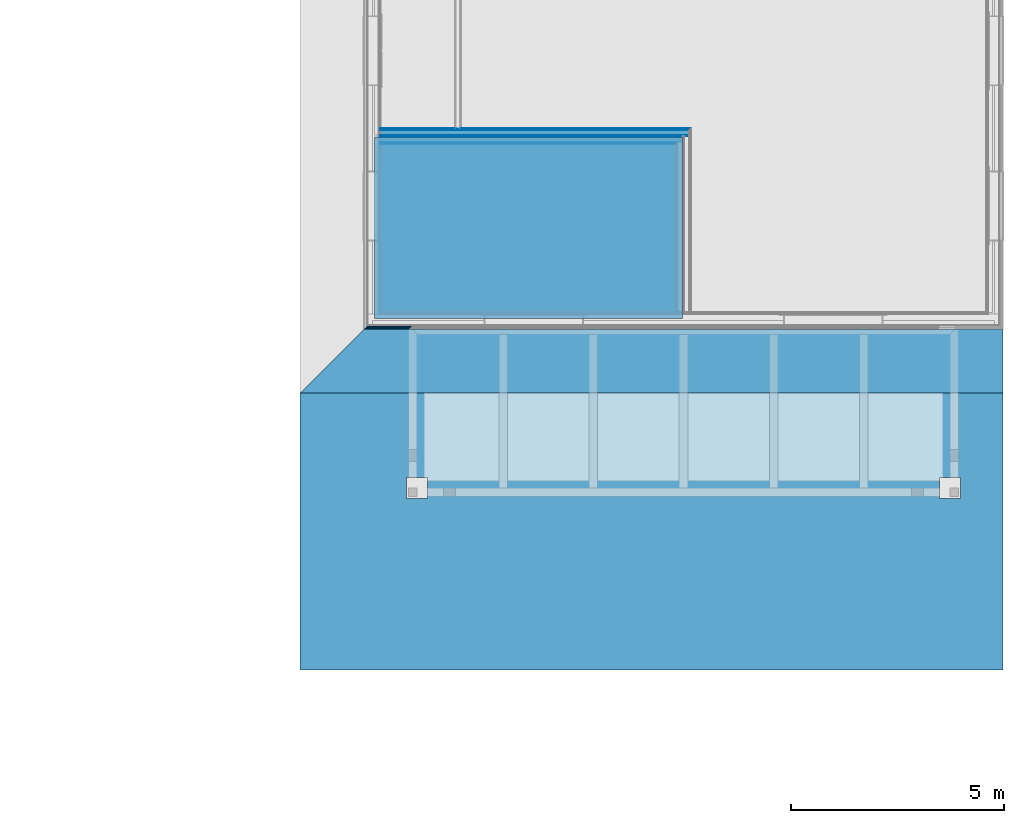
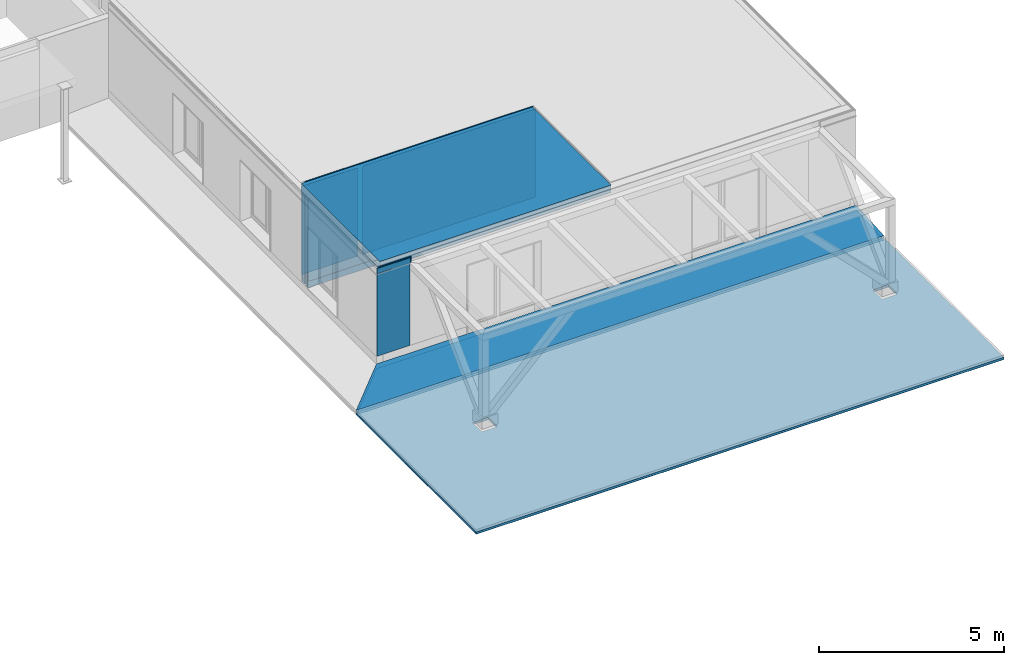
# One storey, part 9 of 20: 22 building element parts, 6 elements without a shape of their own.
"""IFC4 building model written with IfcOpenShell, lengths in millimetres."""

from ifc_helpers import new_model, entity, si_unit, converted_unit, derived_unit, direction, frame, origin_with_axes, place, context, subcontext, project, spatial, polygons, material, type_object, element, aggregate, save


model = new_model("IFC4")

# Units and contexts
model_context = context("Model", 3, precision=0.01, world=origin_with_axes(), true_north=direction((0.0, 1.0)))
body_context = subcontext(model_context, "Body", "Model", "MODEL_VIEW")
ifc_project = project(units=[si_unit("LENGTHUNIT", "METRE", prefix="MILLI"), si_unit("AREAUNIT", "SQUARE_METRE"), si_unit("VOLUMEUNIT", "CUBIC_METRE"), converted_unit("PLANEANGLEUNIT", "DEGREE", entity("IfcPlaneAngleMeasure", 0.0174532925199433), si_unit("PLANEANGLEUNIT", "RADIAN"), dimensions=[0, 0, 0, 0, 0, 0, 0]), converted_unit("TIMEUNIT", "Year", entity("IfcTimeMeasure", 31557600.0), si_unit("TIMEUNIT", "SECOND"), dimensions=[0, 0, 1, 0, 0, 0, 0]), si_unit("MASSUNIT", "GRAM", prefix="KILO"), si_unit("THERMODYNAMICTEMPERATUREUNIT", "DEGREE_CELSIUS"), si_unit("LUMINOUSINTENSITYUNIT", "LUMEN"), si_unit("ENERGYUNIT", "JOULE", prefix="MEGA"), derived_unit("THERMALCONDUCTANCEUNIT", [(si_unit("POWERUNIT", "WATT"), 1), (si_unit("LENGTHUNIT", "METRE"), -1), (si_unit("THERMODYNAMICTEMPERATUREUNIT", "KELVIN"), -1)]), derived_unit("SPECIFICHEATCAPACITYUNIT", [(si_unit("ENERGYUNIT", "JOULE"), 1), (si_unit("MASSUNIT", "GRAM", prefix="KILO"), -1), (si_unit("THERMODYNAMICTEMPERATUREUNIT", "KELVIN"), -1)]), derived_unit("MASSDENSITYUNIT", [(si_unit("MASSUNIT", "GRAM", prefix="KILO"), 1), (si_unit("VOLUMEUNIT", "CUBIC_METRE"), -1)])], contexts=[model_context])

# Site, building, storey
site_placement = place(None, origin_with_axes())
site = spatial("IfcSite", under=ifc_project, at=site_placement, Name="Gelände", CompositionType="ELEMENT")
building_placement = place(site_placement, origin_with_axes())
building = spatial("IfcBuilding", under=site, at=building_placement, Name="Gebäude", CompositionType="ELEMENT")
storey_placement = place(building_placement, frame((0.0, 0.0, 5.198845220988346e-05), z_axis=(0.0, 0.0, 1.0), x_axis=(1.0, 0.0, 0.0)))
storey = spatial("IfcBuildingStorey", under=building, at=storey_placement, Name="EG", CompositionType="ELEMENT", Elevation=0.0)

# Wall, building element parts
wall_type = type_object("IfcWallType", Name="Trennwand Typ 01 186", PredefinedType="NOTDEFINED")
wall_1_placement = place(storey_placement, frame((18307.99744477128, 13160.59728131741, 0.0), z_axis=(0.0, 0.0, 1.0), x_axis=(1.0, 0.0, 0.0)))
wall_1 = element("IfcWall", 1, at=wall_1_placement, inside=storey, type_object=wall_type, Name="Wand-014", PredefinedType="NOTDEFINED")
ifc_material_1 = material(Name="Kalkzementputz Aussen")
building_element_part_1_placement = place(wall_1_placement, origin_with_axes())
building_element_part_1 = element("IfcBuildingElementPart", 2, at=building_element_part_1_placement, material=ifc_material_1, Name="Kalkzementputz Aussen", PredefinedType="NOTDEFINED", context=body_context, shape_type="Tessellation", body=[
    polygons([(1745.507296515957, -9.99999912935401, 219.9999480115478), (1745.507296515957, 8.706457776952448e-07, 219.999948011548), (1745.507296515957, 2.980234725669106e-06, 3143.999948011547), (1745.507296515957, -9.999997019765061, 3143.999948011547), (0.0, 0.0, 219.9999480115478), (0.0, -9.99999999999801, 219.9999480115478), (0.0, 0.0, 3143.999948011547), (0.0, -9.999999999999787, 3143.999948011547)], [[[1, 2, 3, 4]], [[5, 2, 1, 6]], [[2, 5, 7, 3]], [[4, 3, 7, 8]], [[6, 1, 4, 8]], [[5, 6, 8, 7]]], closed=True),
    polygons([(7306.999999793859, -9.999997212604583, 219.9999480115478), (7306.999999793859, 2.980234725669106e-06, 219.9999480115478), (7306.999999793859, 2.980234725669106e-06, 500.0), (7306.999999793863, 2.630820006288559e-07, 3143.999948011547), (7306.999999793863, -9.999999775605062, 3143.999948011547), (1899.507296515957, 9.290630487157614e-07, 219.9999480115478), (1899.507296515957, -9.999999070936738, 219.999948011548), (1899.507296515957, 2.980234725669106e-06, 3143.999948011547), (1899.507296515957, -9.999997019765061, 3143.999948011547)], [[[1, 2, 3, 4, 5]], [[6, 2, 1, 7]], [[2, 6, 8, 4, 3]], [[5, 4, 8, 9]], [[7, 1, 5, 9]], [[6, 7, 9, 8]]], closed=True),
])
ifc_material_2 = material(Name="Gipskartonplatte GKP")
building_element_part_2_placement = place(wall_1_placement, origin_with_axes())
building_element_part_2 = element("IfcBuildingElementPart", 3, at=building_element_part_2_placement, material=ifc_material_2, Name="Gipskartonplatte GKP", PredefinedType="NOTDEFINED", context=body_context, shape_type="Tessellation", body=[
    polygons([(0.0, -9.999999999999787, 3143.999948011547), (7296.999999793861, -9.999999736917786, 3143.999948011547), (7296.999999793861, -9.999997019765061, 500.0), (7306.999999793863, -9.999997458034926, 500.0), (7306.999999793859, -9.999997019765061, 0.0), (0.0, -9.999999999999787, 0.0), (7296.999999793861, -27.99999986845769, 3143.999948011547), (0.0, -28.00000000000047, 3143.999948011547), (7296.999999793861, -27.99999850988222, 500.0), (7306.999999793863, -27.99999872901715, 500.0), (7306.999999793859, -27.99999850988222, 0.0), (0.0, -28.00000000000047, 0.0)], [[[1, 2, 3, 4, 5, 6]], [[7, 2, 1, 8]], [[2, 7, 9, 3]], [[9, 10, 4, 3]], [[5, 4, 10, 11]], [[12, 6, 5, 11]], [[8, 1, 6, 12]], [[7, 8, 12, 11, 10, 9]]], closed=True),
])
ifc_material_3 = material(Name="Gipsfaserplatte GFP")
building_element_part_3_placement = place(wall_1_placement, origin_with_axes())
building_element_part_3 = element("IfcBuildingElementPart", 4, at=building_element_part_3_placement, material=ifc_material_3, Name="Gipsfaserplatte GFP", PredefinedType="NOTDEFINED", context=body_context, shape_type="Tessellation", body=[
    polygons([(0.0, -28.00000000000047, 3143.999948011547), (7278.999999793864, -27.99999986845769, 3143.999948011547), (7278.999999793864, -27.99999850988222, 500.0), (7306.999999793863, -27.99999872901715, 500.0), (7306.999999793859, -27.99999850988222, 0.0), (0.0, -28.00000000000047, 0.0), (7278.999999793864, -45.99999999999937, 3143.999948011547), (0.0, -45.99999999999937, 3143.999948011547), (7278.999999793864, -45.99999999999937, 500.0), (7306.999999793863, -45.99999999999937, 500.0), (7306.999999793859, -45.99999999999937, 0.0), (0.0, -45.99999999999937, 0.0)], [[[1, 2, 3, 4, 5, 6]], [[7, 2, 1, 8]], [[2, 7, 9, 3]], [[10, 4, 3, 9]], [[5, 4, 10, 11]], [[12, 6, 5, 11]], [[8, 1, 6, 12]], [[7, 8, 12, 11, 10, 9]]], closed=True),
])
ifc_material_4 = material(Name="Dämmung Innen")
building_element_part_4_placement = place(wall_1_placement, origin_with_axes())
building_element_part_4 = element("IfcBuildingElementPart", 5, at=building_element_part_4_placement, material=ifc_material_4, Name="Dämmung Innen", PredefinedType="NOTDEFINED", context=body_context, shape_type="Tessellation", body=[
    polygons([(7306.999999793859, -185.9999999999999, 219.9999480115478), (7306.999999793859, -166.0000000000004, 219.9999480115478), (7306.999999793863, -166.0000000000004, 500.0), (7306.999999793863, -185.9999999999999, 500.0), (0.0, -166.0000000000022, 219.9999480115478), (0.0, -186.0000000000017, 219.9999480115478), (0.0, -166.0000000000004, 3399.999948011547), (7140.999999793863, -165.9999999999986, 3399.999948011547), (7140.999999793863, -166.0000000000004, 500.0), (7140.999999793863, -185.9999999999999, 500.0), (7140.999999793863, -185.9999999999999, 3399.999948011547), (0.0, -185.9999999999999, 3399.999948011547)], [[[1, 2, 3, 4]], [[5, 2, 1, 6]], [[2, 5, 7, 8, 9, 3]], [[4, 3, 9, 10]], [[6, 1, 4, 10, 11, 12]], [[5, 6, 12, 7]], [[12, 11, 8, 7]], [[10, 9, 8, 11]]], closed=True),
])

wall_2_placement = place(storey_placement, frame((18307.99744477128, 12788.59728131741, 0.0), z_axis=(0.0, 0.0, 1.0), x_axis=(1.0, 0.0, 0.0)))
wall_2 = element("IfcWall", 6, at=wall_2_placement, inside=storey, type_object=wall_type, Name="Wand-014", PredefinedType="NOTDEFINED")
building_element_part_5_placement = place(wall_2_placement, origin_with_axes())
building_element_part_5 = element("IfcBuildingElementPart", 7, at=building_element_part_5_placement, material=ifc_material_4, Name="Dämmung Innen", PredefinedType="NOTDEFINED", context=body_context, shape_type="Tessellation", body=[
    polygons([(6934.999999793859, 166.0000029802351, 219.9999480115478), (6934.999999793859, 186.0000029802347, 219.9999480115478), (6934.999999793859, 186.0000029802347, 500.0), (6934.999999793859, 166.0000029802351, 500.0), (0.0, 185.9999999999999, 219.9999480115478), (0.0, 166.0000000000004, 219.9999480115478), (0.0, 185.9999999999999, 3399.999948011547), (7120.999999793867, 185.9999999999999, 3399.999948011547), (7120.999999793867, 186.0000029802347, 500.0), (7120.999999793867, 166.0000029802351, 500.0), (7120.999999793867, 166.0000000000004, 3399.999948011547), (0.0, 166.0000000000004, 3399.999948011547)], [[[1, 2, 3, 4]], [[5, 2, 1, 6]], [[2, 5, 7, 8, 9, 3]], [[4, 3, 9, 10]], [[6, 1, 4, 10, 11, 12]], [[5, 6, 12, 7]], [[12, 11, 8, 7]], [[11, 10, 9, 8]]], closed=True),
])
building_element_part_6_placement = place(wall_2_placement, origin_with_axes())
building_element_part_6 = element("IfcBuildingElementPart", 8, at=building_element_part_6_placement, material=ifc_material_3, Name="Gipsfaserplatte GFP", PredefinedType="NOTDEFINED", context=body_context, shape_type="Tessellation", body=[
    polygons([(0.0, 45.99999999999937, 3143.999948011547), (6980.999999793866, 46.00000026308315, 3143.999948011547), (6980.999999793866, 46.00000298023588, 500.0), (6934.999999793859, 46.00000298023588, 500.0), (6934.999999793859, 46.00000298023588, 0.0), (0.0, 45.99999999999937, 0.0), (6980.999999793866, 28.00000013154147, 3143.999948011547), (0.0, 28.00000000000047, 3143.999948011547), (6980.999999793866, 28.00000149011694, 500.0), (6934.999999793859, 28.00000149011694, 500.0), (6934.999999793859, 28.00000149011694, 0.0), (0.0, 28.00000000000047, 0.0)], [[[1, 2, 3, 4, 5, 6]], [[7, 2, 1, 8]], [[2, 7, 9, 3]], [[4, 3, 9, 10]], [[10, 11, 5, 4]], [[12, 6, 5, 11]], [[8, 1, 6, 12]], [[7, 8, 12, 11, 10, 9]]], closed=True),
])
building_element_part_7_placement = place(wall_2_placement, origin_with_axes())
building_element_part_7 = element("IfcBuildingElementPart", 9, at=building_element_part_7_placement, material=ifc_material_2, Name="Gipskartonplatte GKP", PredefinedType="NOTDEFINED", context=body_context, shape_type="Tessellation", body=[
    polygons([(0.0, 28.00000000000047, 3143.999948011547), (6962.999999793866, 28.00000013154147, 3143.999948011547), (6962.999999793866, 28.00000149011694, 500.0), (6934.999999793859, 28.00000149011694, 500.0), (6934.999999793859, 28.00000149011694, 0.0), (0.0, 28.00000000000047, 0.0), (6962.999999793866, 9.999999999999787, 3143.999948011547), (0.0, 9.999999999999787, 3143.999948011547), (6962.999999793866, 9.999999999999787, 500.0), (6934.999999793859, 9.999999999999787, 500.0), (6934.999999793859, 9.999999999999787, 0.0), (0.0, 9.999999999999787, 0.0)], [[[1, 2, 3, 4, 5, 6]], [[7, 2, 1, 8]], [[2, 7, 9, 3]], [[4, 3, 9, 10]], [[10, 11, 5, 4]], [[12, 6, 5, 11]], [[8, 1, 6, 12]], [[7, 8, 12, 11, 10, 9]]], closed=True),
])
ifc_material_5 = material(Name="Ständer Konstruktion gedämmt")
building_element_part_8_placement = place(wall_2_placement, origin_with_axes())
building_element_part_8 = element("IfcBuildingElementPart", 10, at=building_element_part_8_placement, material=ifc_material_5, Name="Ständer Konstruktion gedämmt", PredefinedType="NOTDEFINED", context=body_context, shape_type="Tessellation", body=[
    polygons([(0.0, 166.0000000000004, 3143.999948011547), (7100.999999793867, 165.9999999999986, 3143.999948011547), (7100.999999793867, 166.0000029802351, 500.0), (6934.999999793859, 166.0000029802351, 500.0), (6934.999999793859, 166.0000029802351, 0.0), (0.0, 166.0000000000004, 0.0), (7100.999999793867, 46.00000026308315, 3143.999948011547), (0.0, 45.99999999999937, 3143.999948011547), (7100.999999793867, 46.00000298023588, 500.0), (6934.999999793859, 46.00000298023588, 500.0), (6934.999999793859, 46.00000298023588, 0.0), (0.0, 45.99999999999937, 0.0)], [[[1, 2, 3, 4, 5, 6]], [[7, 2, 1, 8]], [[2, 7, 9, 3]], [[4, 3, 9, 10]], [[10, 11, 5, 4]], [[12, 6, 5, 11]], [[8, 1, 6, 12]], [[7, 8, 12, 11, 10, 9]]], closed=True),
])
building_element_part_9_placement = place(wall_2_placement, origin_with_axes())
building_element_part_9 = element("IfcBuildingElementPart", 11, at=building_element_part_9_placement, material=ifc_material_1, Name="Kalkzementputz Aussen", PredefinedType="NOTDEFINED", context=body_context, shape_type="Tessellation", body=[
    polygons([(0.0, 9.999999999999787, 3143.999948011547), (6944.999999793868, 9.999999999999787, 3143.999948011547), (6944.999999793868, 9.999999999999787, 500.0), (6934.999999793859, 9.999999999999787, 500.0), (6934.999999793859, 9.999999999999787, 219.9999480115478), (0.0, 9.999999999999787, 219.9999480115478), (6944.999999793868, 0.0, 3143.999948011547), (0.0, 0.0, 3143.999948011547), (6944.999999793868, 0.0, 500.0), (6934.999999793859, 0.0, 500.0), (6934.999999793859, 0.0, 219.9999480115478), (0.0, 0.0, 219.9999480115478)], [[[1, 2, 3, 4, 5, 6]], [[7, 2, 1, 8]], [[2, 7, 9, 3]], [[4, 3, 9, 10]], [[11, 5, 4, 10]], [[6, 5, 11, 12]], [[8, 1, 6, 12]], [[7, 8, 12, 11, 10, 9]]], closed=True),
])
aggregate(wall_2, [building_element_part_5, building_element_part_6, building_element_part_7, building_element_part_8, building_element_part_9])

# Building element part
building_element_part_10_placement = place(wall_1_placement, origin_with_axes())
building_element_part_10 = element("IfcBuildingElementPart", 12, at=building_element_part_10_placement, material=ifc_material_5, Name="Ständer Konstruktion gedämmt", PredefinedType="NOTDEFINED", context=body_context, shape_type="Tessellation", body=[
    polygons([(0.0, -45.99999999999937, 3143.999948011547), (7260.999999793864, -45.99999999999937, 3143.999948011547), (7260.999999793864, -45.99999999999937, 500.0), (7306.999999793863, -45.99999999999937, 500.0), (7306.999999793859, -45.99999999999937, 0.0), (0.0, -45.99999999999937, 0.0), (7260.999999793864, -165.9999999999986, 3143.999948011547), (0.0, -158.6616863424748, 3143.999948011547), (7140.999999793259, -166.0000000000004, 3143.999948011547), (7260.999999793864, -166.0000000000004, 500.0), (7306.999999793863, -166.0000000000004, 500.0), (7306.999999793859, -166.0000000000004, 0.0), (0.0, -166.0000000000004, 0.0), (0.0, -166.0000000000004, 3399.999948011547), (0.0, -158.6616863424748, 3399.999948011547), (7141.00000039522, -166.0000000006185, 3399.999948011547)], [[[1, 2, 3, 4, 5, 6]], [[7, 2, 1, 8, 9]], [[2, 7, 10, 3]], [[11, 4, 3, 10]], [[5, 4, 11, 12]], [[13, 6, 5, 12]], [[8, 1, 6, 13, 14, 15]], [[9, 8, 15, 16]], [[9, 16, 14, 13, 12, 11, 10, 7]], [[16, 15, 14]]], closed=True),
])

aggregate(wall_1, [building_element_part_1, building_element_part_2, building_element_part_3, building_element_part_4, building_element_part_10])

# Curtain wall, building element parts
curtain_wall_type = type_object("IfcCurtainWallType", Name="Fassade Typ 02 - Vertikale Schalung 71", PredefinedType="NOTDEFINED")
curtain_wall_placement = place(storey_placement, frame((18974.99747005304, 8447.597281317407, 500.0000000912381), z_axis=(0.0, 0.0, 1.0), x_axis=(-1.0, 0.0, 0.0)))
curtain_wall = element("IfcCurtainWall", 13, at=curtain_wall_placement, inside=storey, type_object=curtain_wall_type, Name="Wand-014", PredefinedType="NOTDEFINED")
ifc_material_6 = material(Name="Lattenrost horizontal")
building_element_part_11_placement = place(curtain_wall_placement, origin_with_axes())
building_element_part_11 = element("IfcBuildingElementPart", 14, at=building_element_part_11_placement, material=ifc_material_6, Name="Lattenrost horizontal", PredefinedType="NOTDEFINED", context=body_context, shape_type="Tessellation", body=[
    polygons([(1000.000025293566, -45.99999998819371, 2725.173192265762), (5.00002528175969, -45.99999999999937, 2725.173192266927), (5.00002528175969, -45.99999999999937, 2728.190165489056), (1000.000025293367, -45.99999998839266, 2728.190165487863), (1000.000025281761, -45.99999999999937, 2899.999947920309), (-45.99999999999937, -45.99999999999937, 2899.999947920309), (-45.99999999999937, -45.99999999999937, 2719.999947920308), (0.0, -45.99999999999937, 2719.999947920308), (0.0, -45.99999694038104, 0.0), (1000.000025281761, -45.99999961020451, 0.0), (1000.000025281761, -20.99999995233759, 2722.705262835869), (5.00002528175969, -21.0000000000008, 2722.705262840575), (5.00002528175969, -21.0000000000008, 2725.620760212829), (1000.000025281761, -20.99999995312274, 2725.620760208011), (1000.000025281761, -20.99999999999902, 2899.999947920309), (-45.99999999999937, -20.99999999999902, 2899.999947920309), (-45.99999999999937, -21.0000000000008, 2719.999947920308), (0.0, -21.0000000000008, 2719.999947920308), (0.0, -20.99999388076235, 0.0), (1000.000025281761, -20.99999922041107, 0.0)], [[[1, 2, 3, 4, 5, 6, 7, 8, 9, 10]], [[2, 1, 11, 12]], [[3, 2, 12, 13]], [[4, 3, 13, 14]], [[4, 14, 15, 5]], [[15, 16, 6, 5]], [[17, 7, 6, 16]], [[8, 7, 17, 18]], [[19, 9, 8, 18]], [[20, 10, 9, 19]], [[11, 1, 10, 20]], [[12, 11, 20, 19, 18, 17, 16, 15, 14, 13]]], closed=True),
])
ifc_material_7 = material(Name="Lattenrost vertikal")
building_element_part_12_placement = place(curtain_wall_placement, origin_with_axes())
building_element_part_12 = element("IfcBuildingElementPart", 15, at=building_element_part_12_placement, material=ifc_material_7, Name="Lattenrost vertikal", PredefinedType="NOTDEFINED", context=body_context, shape_type="Tessellation", body=[
    polygons([(975.0000252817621, -70.99999999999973, 2727.641121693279), (5.00002528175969, -70.99999999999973, 2727.641121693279), (5.00002528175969, -70.99999999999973, 2760.650824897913), (975.0000252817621, -70.99999999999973, 2760.650824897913), (975.0000252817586, -70.99999999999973, 2899.999947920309), (-70.99999910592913, -70.99999999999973, 2899.999947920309), (-70.99999910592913, -70.99999999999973, 2719.999947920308), (0.0, -70.99999999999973, 2719.999947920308), (0.0, -70.99999999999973, 0.0), (975.0000252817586, -70.99999999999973, 0.0), (975.0000252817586, -45.9999999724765, 2725.17319226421), (5.00002528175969, -45.99999999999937, 2725.173192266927), (5.00002528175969, -45.99999999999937, 2728.190165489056), (5.00002528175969, -68.29999884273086, 2730.482074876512), (5.00002528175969, -68.29999884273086, 2760.650824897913), (975.0000252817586, -68.29999884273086, 2760.650824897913), (975.0000252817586, -68.29999884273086, 2730.482074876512), (975.0000252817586, -45.99999997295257, 2728.190165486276), (975.0000252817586, -45.99999999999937, 2899.999947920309), (-70.99999910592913, -45.99999999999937, 2899.999947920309), (-70.99999910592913, -45.99999999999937, 2719.999947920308), (0.0, -45.99999999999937, 2719.999947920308), (0.0, -45.99999694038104, 0.0), (975.0000252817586, -45.99999954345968, 0.0)], [[[1, 2, 3, 4, 5, 6, 7, 8, 9, 10]], [[2, 1, 11, 12]], [[3, 2, 12, 13, 14, 15]], [[4, 3, 15, 16]], [[17, 18, 19, 5, 4, 16]], [[19, 20, 6, 5]], [[20, 21, 7, 6]], [[22, 8, 7, 21]], [[9, 8, 22, 23]], [[10, 9, 23, 24]], [[11, 1, 10, 24]], [[12, 11, 24, 23, 22, 21, 20, 19, 18, 13]], [[13, 18, 17, 14]], [[17, 16, 15, 14]]], closed=True),
])
ifc_material_8 = material(Name="Falzschalung vertikal")
building_element_part_13_placement = place(curtain_wall_placement, origin_with_axes())
building_element_part_13 = element("IfcBuildingElementPart", 16, at=building_element_part_13_placement, material=ifc_material_8, Name="Falzschalung vertikal", PredefinedType="NOTDEFINED", context=body_context, shape_type="Tessellation", body=[
    polygons([(1025.000025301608, -20.99999998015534, 2722.705262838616), (5.00002528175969, -20.99999999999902, 2722.705262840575), (5.00002528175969, -20.99999999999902, 2725.620760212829), (1025.000025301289, -20.99999998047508, 2725.620760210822), (1025.000025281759, -20.99999999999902, 2899.999947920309), (-21.0000000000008, -20.99999999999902, 2899.999947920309), (-21.0000000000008, -21.0000000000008, 2719.999947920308), (0.0, -21.0000000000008, 2719.999947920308), (0.0, -20.99999388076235, 0.0), (1025.000025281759, -20.99999935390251, 0.0), (1025.000025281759, 3.712763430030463e-08, 2720.632202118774), (5.00002528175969, 0.0, 2720.63220212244), (5.00002528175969, 0.0, 2723.462459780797), (1025.000025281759, 3.654143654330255e-08, 2723.462459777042), (1025.000025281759, 0.0, 2899.999947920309), (-21.0000000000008, 0.0, 2899.999947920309), (-21.0000000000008, 0.0, 2719.999947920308), (0.0, 0.0, 2719.999947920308), (0.0, 5.685238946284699e-06, 0.0), (1025.000025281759, 6.002736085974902e-07, 0.0)], [[[1, 2, 3, 4, 5, 6, 7, 8, 9, 10]], [[2, 1, 11, 12]], [[3, 2, 12, 13]], [[4, 3, 13, 14]], [[4, 14, 15, 5]], [[15, 16, 6, 5]], [[17, 7, 6, 16]], [[8, 7, 17, 18]], [[19, 9, 8, 18]], [[20, 10, 9, 19]], [[11, 1, 10, 20]], [[12, 11, 20, 19, 18, 17, 16, 15, 14, 13]]], closed=True),
])
aggregate(curtain_wall, [building_element_part_11, building_element_part_12, building_element_part_13])

# Slab, building element parts
slab_type = type_object("IfcSlabType", Name="Geschossdecke Typ 01 256", PredefinedType="NOTDEFINED")
slab_placement = place(storey_placement, frame((18177.99744477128, 8696.597281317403, 3399.999948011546), z_axis=(0.0, 0.0, 1.0), x_axis=(1.0, 0.0, 0.0)))
slab = element("IfcSlab", 17, at=slab_placement, inside=storey, type_object=slab_type, Name="Deckennr.-073", PredefinedType="NOTDEFINED")
ifc_material_9 = material(Name="Grobspanplatte-OSB")
building_element_part_14_placement = place(slab_placement, origin_with_axes())
building_element_part_14 = element("IfcBuildingElementPart", 18, at=building_element_part_14_placement, material=ifc_material_9, Name="Grobspanplatte-OSB", PredefinedType="NOTDEFINED", context=body_context, shape_type="Tessellation", body=[
    polygons([(7230.999999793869, 0.0, -17.99999999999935), (7230.999999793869, 0.0, 0.0), (0.0, 0.0, 0.0), (0.0, 0.0, -17.99999999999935), (7230.999999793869, 4258.000000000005, -17.99999999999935), (7230.999999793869, 4258.000000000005, 0.0), (0.0, 4258.000000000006, 0.0), (0.0, 4258.000000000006, -17.99999999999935)], [[[1, 2, 3, 4]], [[5, 6, 2, 1]], [[3, 2, 6, 7]], [[4, 3, 7, 8]], [[4, 8, 5, 1]], [[8, 7, 6, 5]]], closed=True),
])
ifc_material_10 = material(Name="Balken Konstruktion ungedämmt")
building_element_part_15_placement = place(slab_placement, origin_with_axes())
building_element_part_15 = element("IfcBuildingElementPart", 19, at=building_element_part_15_placement, material=ifc_material_10, Name="Balken Konstruktion ungedämmt", PredefinedType="NOTDEFINED", context=body_context, shape_type="Tessellation", body=[
    polygons([(7230.999999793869, 0.0, -137.9999999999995), (7230.999999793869, 0.0, -17.99999999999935), (0.0, 0.0, -17.99999999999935), (0.0, 0.0, -137.9999999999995), (7230.999999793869, 4258.000000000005, -137.9999999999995), (7230.999999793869, 4258.000000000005, -17.99999999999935), (0.0, 4258.000000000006, -17.99999999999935), (0.0, 4258.000000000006, -137.9999999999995)], [[[1, 2, 3, 4]], [[5, 6, 2, 1]], [[3, 2, 6, 7]], [[4, 3, 7, 8]], [[4, 8, 5, 1]], [[8, 7, 6, 5]]], closed=True),
])
ifc_material_11 = material(Name="Balken Konstruktion gedämmt")
building_element_part_16_placement = place(slab_placement, origin_with_axes())
building_element_part_16 = element("IfcBuildingElementPart", 20, at=building_element_part_16_placement, material=ifc_material_11, Name="Balken Konstruktion gedämmt", PredefinedType="NOTDEFINED", context=body_context, shape_type="Tessellation", body=[
    polygons([(7230.999999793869, 0.0, -237.9999999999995), (7230.999999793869, 0.0, -137.9999999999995), (0.0, 0.0, -137.9999999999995), (0.0, 0.0, -237.9999999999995), (7230.999999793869, 4258.000000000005, -237.9999999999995), (7230.999999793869, 4258.000000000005, -137.9999999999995), (0.0, 4258.000000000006, -137.9999999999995), (0.0, 4258.000000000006, -237.9999999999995)], [[[1, 2, 3, 4]], [[5, 6, 2, 1]], [[3, 2, 6, 7]], [[4, 3, 7, 8]], [[4, 8, 5, 1]], [[8, 7, 6, 5]]], closed=True),
])
building_element_part_17_placement = place(slab_placement, origin_with_axes())
building_element_part_17 = element("IfcBuildingElementPart", 21, at=building_element_part_17_placement, material=ifc_material_9, Name="Grobspanplatte-OSB", PredefinedType="NOTDEFINED", context=body_context, shape_type="Tessellation", body=[
    polygons([(0.0, 0.0, -255.9999999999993), (7230.999999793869, 0.0, -255.9999999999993), (7230.999999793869, 0.0, -237.9999999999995), (0.0, 0.0, -237.9999999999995), (0.0, 4258.000000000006, -255.9999999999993), (7230.999999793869, 4258.000000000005, -255.9999999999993), (7230.999999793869, 4258.000000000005, -237.9999999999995), (0.0, 4258.000000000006, -237.9999999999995)], [[[1, 2, 3, 4]], [[1, 5, 6, 2]], [[2, 6, 7, 3]], [[4, 3, 7, 8]], [[5, 1, 4, 8]], [[6, 5, 8, 7]]], closed=True),
])
aggregate(slab, [building_element_part_14, building_element_part_15, building_element_part_16, building_element_part_17])

# Covering, building element parts
covering_type = type_object("IfcCoveringType", Name="Flachdach Typ 02 - Dacheindeckung ESH 155", PredefinedType="NOTDEFINED")
covering_1_placement = place(storey_placement, frame((32428.99726662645, 6947.59728131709, 0.0), z_axis=(0.0, 0.0, 1.0), x_axis=(-1.0, 0.0, 0.0)))
covering_1 = element("IfcCovering", 22, at=covering_1_placement, inside=storey, type_object=covering_type, Name="Dach-010", PredefinedType="NOTDEFINED")
ifc_material_12 = material(Name="Keramik")
building_element_part_18_placement = place(covering_1_placement, origin_with_axes())
building_element_part_18 = element("IfcBuildingElementPart", 23, at=building_element_part_18_placement, material=ifc_material_12, Name="Keramik", PredefinedType="NOTDEFINED", context=body_context, shape_type="Tessellation", body=[
    polygons([(-499.9790949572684, 7.955414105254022e-08, 80.17758067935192), (-499.979095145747, 1.591038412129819e-07, 5.01109878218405), (-499.979095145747, -1500.000000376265, 105.0110988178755), (-499.9790949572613, -1500.000000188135, 180.1775806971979), (15999.99982171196, 7.954792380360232e-08, 80.17758067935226), (15999.99982156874, 1.591038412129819e-07, 5.01109878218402), (14499.99982156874, -1500.000000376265, 105.0110988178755), (14499.99982171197, -1500.000000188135, 180.177580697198)], [[[1, 2, 3, 4]], [[5, 6, 2, 1]], [[3, 2, 6, 7]], [[4, 3, 7, 8]], [[4, 8, 5, 1]], [[8, 7, 6, 5]]], closed=True),
])
ifc_material_13 = material(Name="Grünfläche")
building_element_part_19_placement = place(covering_1_placement, origin_with_axes())
building_element_part_19 = element("IfcBuildingElementPart", 24, at=building_element_part_19_placement, material=ifc_material_13, Name="Grünfläche", PredefinedType="NOTDEFINED", context=body_context, shape_type="Tessellation", body=[
    polygons([(-499.9790947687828, -1500.000000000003, 255.3440625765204), (14499.99982185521, -1500.000000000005, 255.3440625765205), (15999.99982185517, 0.0, 155.3440625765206), (-499.9790947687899, 0.0, 155.3440625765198), (-499.9790949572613, -1500.000000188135, 180.1775806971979), (14499.99982171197, -1500.000000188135, 180.177580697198), (15999.99982171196, 7.954792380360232e-08, 80.17758067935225), (-499.9790949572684, 7.955414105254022e-08, 80.17758067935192)], [[[1, 2, 3, 4]], [[1, 5, 6, 2]], [[2, 6, 7, 3]], [[3, 7, 8, 4]], [[4, 8, 5, 1]], [[5, 8, 7, 6]]], closed=True),
])

covering_2_placement = place(storey_placement, frame((16428.99744477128, 6947.597252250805, -5.198845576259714e-05), z_axis=(0.0, 0.0, 1.0), x_axis=(1.0, 0.0, 0.0)))
covering_2 = element("IfcCovering", 25, at=covering_2_placement, inside=storey, type_object=covering_type, Name="Deckennr.-070", PredefinedType="NOTDEFINED")
ifc_material_14 = material(Name="Sperrschicht")
building_element_part_20_placement = place(covering_2_placement, origin_with_axes())
building_element_part_20 = element("IfcBuildingElementPart", 26, at=building_element_part_20_placement, material=ifc_material_14, Name="Sperrschicht", PredefinedType="NOTDEFINED", context=body_context, shape_type="Tessellation", body=[
    polygons([(0.0, -6499.999970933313, 0.0), (0.0, 0.0, 0.0), (16499.99979757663, 0.0, 0.0), (16499.99979757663, -6499.999970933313, 0.0), (15003.99997403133, -2478.999970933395, 5.198845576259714e-05), (15503.99997403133, -2478.999970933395, 5.198845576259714e-05), (15503.99997403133, -1978.999970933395, 5.198845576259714e-05), (15003.99997403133, -1978.999970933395, 5.198845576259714e-05), (2496.000025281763, -2478.999970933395, 5.198845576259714e-05), (2996.000025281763, -2478.999970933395, 5.198845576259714e-05), (2996.000025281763, -1978.999970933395, 5.198845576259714e-05), (2496.000025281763, -1978.999970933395, 5.198845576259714e-05), (0.0, 0.0, 5.000000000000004), (0.0, -6499.999970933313, 5.000000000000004), (16499.99979757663, 0.0, 5.000000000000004), (16499.99979757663, -6499.999970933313, 5.000000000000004), (15003.99997403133, -2478.999970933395, 5.000000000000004), (15503.99997403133, -2478.999970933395, 5.000000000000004), (15503.99997403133, -1978.999970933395, 5.000000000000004), (15003.99997403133, -1978.999970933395, 5.000000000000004), (2496.000025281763, -2478.999970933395, 5.000000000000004), (2996.000025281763, -2478.999970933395, 5.000000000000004), (2996.000025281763, -1978.999970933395, 5.000000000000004), (2496.000025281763, -1978.999970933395, 5.000000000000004)], [[[1, 2, 3, 4], [5, 6, 7, 8], [9, 10, 11, 12]], [[13, 2, 1, 14]], [[15, 3, 2, 13]], [[16, 4, 3, 15]], [[14, 1, 4, 16]], [[17, 18, 6, 5]], [[18, 19, 7, 6]], [[19, 20, 8, 7]], [[20, 17, 5, 8]], [[21, 22, 10, 9]], [[22, 23, 11, 10]], [[23, 24, 12, 11]], [[24, 21, 9, 12]], [[15, 13, 14, 16], [17, 20, 19, 18], [21, 24, 23, 22]]], closed=True),
])
building_element_part_21_placement = place(covering_2_placement, origin_with_axes())
building_element_part_21 = element("IfcBuildingElementPart", 27, at=building_element_part_21_placement, material=ifc_material_12, Name="Keramik", PredefinedType="NOTDEFINED", context=body_context, shape_type="Tessellation", body=[
    polygons([(0.0, -6499.999970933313, 5.000000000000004), (0.0, 0.0, 5.000000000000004), (16499.99979757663, 0.0, 5.000000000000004), (16499.99979757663, -6499.999970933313, 5.000000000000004), (15003.99997403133, -2478.999970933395, 5.000000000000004), (15503.99997403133, -2478.999970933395, 5.000000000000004), (15503.99997403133, -1978.999970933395, 5.000000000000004), (15003.99997403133, -1978.999970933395, 5.000000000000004), (2496.000025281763, -2478.999970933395, 5.000000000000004), (2996.000025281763, -2478.999970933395, 5.000000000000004), (2996.000025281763, -1978.999970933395, 5.000000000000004), (2496.000025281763, -1978.999970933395, 5.000000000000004), (0.0, -6499.999970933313, 80.00000000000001), (0.0, 0.0, 80.00000000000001), (16499.99979757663, 0.0, 80.00000000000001), (16499.99979757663, -6499.999970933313, 80.00000000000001), (15003.99997403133, -2478.999970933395, 80.00000000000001), (15503.99997403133, -2478.999970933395, 80.00000000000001), (15503.99997403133, -1978.999970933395, 80.00000000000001), (15003.99997403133, -1978.999970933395, 80.00000000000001), (2496.000025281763, -2478.999970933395, 80.00000000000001), (2996.000025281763, -2478.999970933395, 80.00000000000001), (2996.000025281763, -1978.999970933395, 80.00000000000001), (2496.000025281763, -1978.999970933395, 80.00000000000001)], [[[1, 2, 3, 4], [5, 6, 7, 8], [9, 10, 11, 12]], [[2, 1, 13, 14]], [[3, 2, 14, 15]], [[4, 3, 15, 16]], [[1, 4, 16, 13]], [[17, 18, 6, 5]], [[18, 19, 7, 6]], [[19, 20, 8, 7]], [[20, 17, 5, 8]], [[21, 22, 10, 9]], [[22, 23, 11, 10]], [[23, 24, 12, 11]], [[24, 21, 9, 12]], [[15, 14, 13, 16], [17, 20, 19, 18], [21, 24, 23, 22]]], closed=True),
])
aggregate(covering_2, [building_element_part_20, building_element_part_21])

# Building element part
building_element_part_22_placement = place(covering_1_placement, origin_with_axes())
building_element_part_22 = element("IfcBuildingElementPart", 28, at=building_element_part_22_placement, material=ifc_material_14, Name="Sperrschicht", PredefinedType="NOTDEFINED", context=body_context, shape_type="Tessellation", body=[
    polygons([(-499.979095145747, 1.591038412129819e-07, 5.011098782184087), (-499.9790951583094, 1.644071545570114e-07, -2.723096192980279e-07), (-499.9790951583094, -1500.000000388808, 99.99999976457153), (-499.979095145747, -1500.000000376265, 105.0110988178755), (15999.99982156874, 1.591038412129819e-07, 5.011098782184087), (15999.99982155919, 1.644071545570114e-07, -2.723096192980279e-07), (14499.99982155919, -1500.000000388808, 99.99999976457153), (14499.99982156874, -1500.000000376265, 105.0110988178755)], [[[1, 2, 3, 4]], [[5, 6, 2, 1]], [[2, 6, 7, 3]], [[4, 3, 7, 8]], [[4, 8, 5, 1]], [[8, 7, 6, 5]]], closed=True),
])

aggregate(covering_1, [building_element_part_18, building_element_part_19, building_element_part_22])

save(model, "model.ifc")
